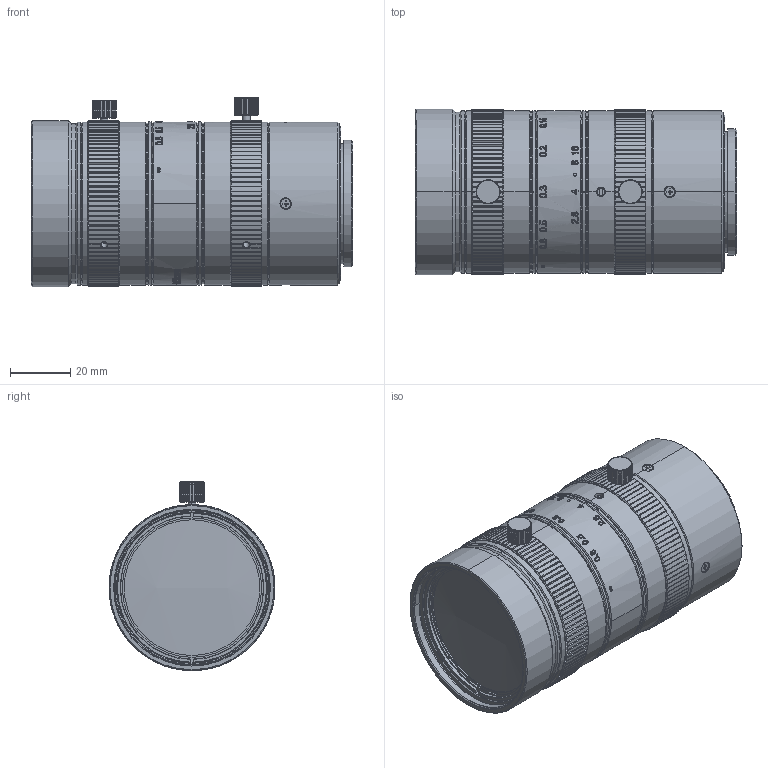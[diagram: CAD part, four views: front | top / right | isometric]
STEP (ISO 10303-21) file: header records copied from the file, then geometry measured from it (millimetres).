
FILE_DESCRIPTION((''),'2;1');
FILE_NAME('LBI001_ASM','2023-07-26T16:38:19',('Administrator'),(''),'CREO PARAMETRIC BY PTC INC, 2020033','CREO PARAMETRIC BY PTC INC, 2020033','');
FILE_SCHEMA(('CONFIG_CONTROL_DESIGN','SHAPE_APPEARANCE_LAYERS_GROUPS'));
Length unit declared in the file: millimetre
Products named in the file (18): G9_4; G1_3; LBA_ASM_9_ASM; M42000_41; 000_146; CAM0_112; 0006_78; 00_16; 000_110; 000_215; _000_9; _000_22; M1D6X4D500_7; LBG-601_14; LBG-602_8; M2X6D500_10; LBI000_ASM_214_ASM; LBI001_ASM
Assembly tree (22 placements, depth 4):
  LBI001_ASM
    LBI000_ASM_214_ASM
      LBA_ASM_9_ASM
        G9_4
        G1_3
      M42000_41
      000_146
      CAM0_112
      0006_78
      00_16  x2
      000_110
      000_215
      _000_9
      _000_22
      M1D6X4D500_7  x2
      LBG-601_14
      LBG-602_8
      M2X6D500_10  x4
Bounding box: 106.49 x 55 x 62.73 mm (x, y, z)
Volume: 128008.4 mm3; surface area: 93407.1 mm2
Topology: 20 solids, 43 shells, 2965 faces, 8427 edges, 5615 vertices
Faces by surface type: plane 899, cylinder 888, bspline 670, cone 458, torus 24, extrusion 22, sphere 4
Entity records: 146938 total; most frequent: CARTESIAN_POINT 62342, ORIENTED_EDGE 15144, DIRECTION 10642, EDGE_CURVE 7646, VERTEX_POINT 5099, PRESENTATION_STYLE_ASSIGNMENT 4986, STYLED_ITEM 4982, AXIS2_PLACEMENT_3D 3840
